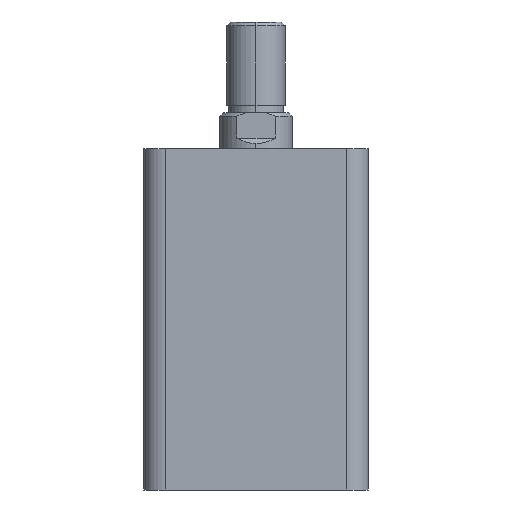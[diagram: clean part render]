
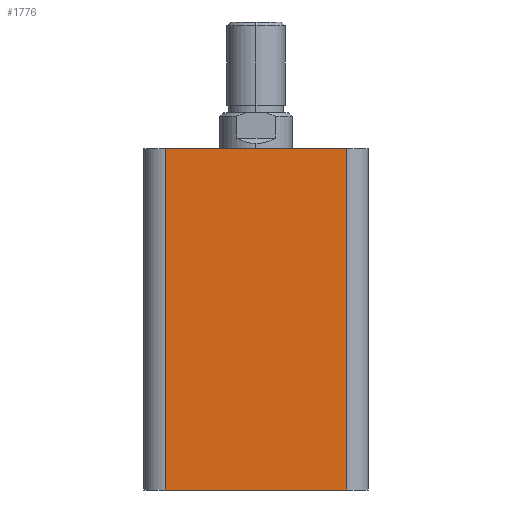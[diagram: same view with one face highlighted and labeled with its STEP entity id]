
A CAD part, left-side view. The second image highlights one B-rep face of the part: STEP entity #1776.
In plain terms, the highlighted planar face has unit normal (-1, 0, 0).
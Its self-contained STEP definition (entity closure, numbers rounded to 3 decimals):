
#353 = FACE_OUTER_BOUND ( 'NONE', #4376, .T. ) ;
#646 = EDGE_CURVE ( 'NONE', #2625, #2539, #2533, .T. ) ;
#681 = EDGE_CURVE ( 'NONE', #3010, #3081, #2492, .T. ) ;
#693 = EDGE_CURVE ( 'NONE', #3081, #2539, #2476, .T. ) ;
#790 = EDGE_CURVE ( 'NONE', #2625, #3010, #1638, .T. ) ;
#1637 = VECTOR ( 'NONE', #3434, 1000. ) ;
#1638 = LINE ( 'NONE', #3435, #1637 ) ;
#1776 = ADVANCED_FACE ( 'NONE', ( #353 ), #5066, .F. ) ;
#1826 = ORIENTED_EDGE ( 'NONE', *, *, #681, .T. ) ;
#1827 = ORIENTED_EDGE ( 'NONE', *, *, #693, .T. ) ;
#1828 = ORIENTED_EDGE ( 'NONE', *, *, #646, .F. ) ;
#1829 = ORIENTED_EDGE ( 'NONE', *, *, #790, .T. ) ;
#2144 = CARTESIAN_POINT ( 'NONE',  ( -31., -25., 94. ) ) ;
#2149 = DIRECTION ( 'NONE',  ( 0., 0., 1. ) ) ;
#2173 = CARTESIAN_POINT ( 'NONE',  ( -31., 31., 0. ) ) ;
#2176 = DIRECTION ( 'NONE',  ( 0., -1., 0. ) ) ;
#2298 = DIRECTION ( 'NONE',  ( 0., -1., 0. ) ) ;
#2310 = CARTESIAN_POINT ( 'NONE',  ( -31., 31., 94. ) ) ;
#2468 = VECTOR ( 'NONE', #2149, 1000. ) ;
#2476 = LINE ( 'NONE', #2144, #2468 ) ;
#2488 = VECTOR ( 'NONE', #2176, 1000. ) ;
#2492 = LINE ( 'NONE', #2173, #2488 ) ;
#2529 = VECTOR ( 'NONE', #2298, 1000. ) ;
#2533 = LINE ( 'NONE', #2310, #2529 ) ;
#2539 = VERTEX_POINT ( 'NONE', #3965 ) ;
#2625 = VERTEX_POINT ( 'NONE', #4056 ) ;
#2806 = AXIS2_PLACEMENT_3D ( 'NONE', #5062, #5068, #5069 ) ;
#3010 = VERTEX_POINT ( 'NONE', #4069 ) ;
#3081 = VERTEX_POINT ( 'NONE', #4131 ) ;
#3434 = DIRECTION ( 'NONE',  ( 0., 0., -1. ) ) ;
#3435 = CARTESIAN_POINT ( 'NONE',  ( -31., 25., 94. ) ) ;
#3965 = CARTESIAN_POINT ( 'NONE',  ( -31., -25., 94. ) ) ;
#4056 = CARTESIAN_POINT ( 'NONE',  ( -31., 25., 94. ) ) ;
#4069 = CARTESIAN_POINT ( 'NONE',  ( -31., 25., 0. ) ) ;
#4131 = CARTESIAN_POINT ( 'NONE',  ( -31., -25., 0. ) ) ;
#4376 = EDGE_LOOP ( 'NONE', ( #1826, #1827, #1828, #1829 ) ) ;
#5062 = CARTESIAN_POINT ( 'NONE',  ( -31., 31., 94. ) ) ;
#5066 = PLANE ( 'NONE',  #2806 ) ;
#5068 = DIRECTION ( 'NONE',  ( 1., 0., 0. ) ) ;
#5069 = DIRECTION ( 'NONE',  ( 0., 0., -1. ) ) ;
